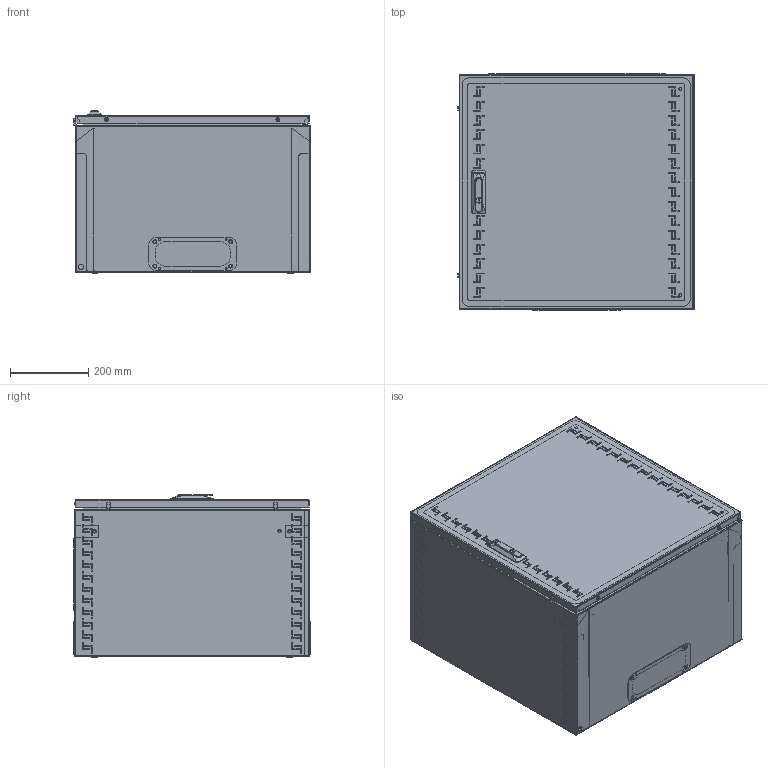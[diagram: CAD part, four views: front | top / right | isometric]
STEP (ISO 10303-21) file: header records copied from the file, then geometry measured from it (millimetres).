
FILE_DESCRIPTION (( 'STEP AP203' ), '1' );
FILE_NAME ('R5STI1240.STEP', '2019-07-16T11:53:00', ( '' ), ( '' ), 'SwSTEP 2.0', 'SolidWorks 2017', '' );
FILE_SCHEMA (( 'CONFIG_CONTROL_DESIGN' ));
Length unit declared in the file: millimetre
Products named in the file (38): Catch Mesan; RB.0374.02.00.0 C縫-01 (600x600x400); RB.0374.04.01.0; M6x12-DIN 6921_stright; Handle Mesan (part 3); RB.0374.05.01.0_-01 (600å600); RB.0374.04.00.0 CÁ; RB.0374.01.01.0_-01 (600å600å400); AC00C401_AC00C401; 4.8x13 DIN 7981 (R5A07)_straight; AC00C398; RB.0048.02.01.0; RB.0374.01.02.0_-01 (600x600); MirrorRB.0374.00.01.0_-00 (400)<As Machined>; M6x10-A1100004_straight; RB.0374.05.00.0 ÑÁ_-01 (600å600); AC00C399; Ì6õ20-A5100001_straight; MirrorMirrorRB.0374.00.01.0_-00 (400)<As Machined><As Machined>; Handle 308 Mesan; AC00C112; M4x8 GOST 17475-80 (DIN 965)_straight; Ì6õ12-A5100231_straight; AC00C380; RB.0374.06.00.0 ÑÁ_-01 (600å600); PF 7,5x15 door STI_0600å0600; AC00C383; RB.0374.01.00.0 C縫-01 (600x600x400); R5STI1240; RB.0374.00.01.0_-00 (400); Handle Mesan (part 1); AC00C061_AC00C061; RB.0374.03.01.0; RB.0374.00.02.0_-01 (12U); Handle Mesan (part 2); M6-DIN 6923 (CM100600)_straight; RB.0374.03.00.0 CÁ; RB.0374.00.02.0 mirror_-05 (12U)
Assembly tree (100 placements, depth 4):
  R5STI1240
    RB.0374.02.00.0 C縫-01 (600x600x400)
      RB.0374.01.00.0 C縫-01 (600x600x400)
        RB.0374.01.01.0_-01 (600å600å400)
        RB.0374.01.02.0_-01 (600x600)
        Ì6õ20-A5100001_straight  x4
        Ì6õ12-A5100231_straight  x6
      RB.0374.03.00.0 CÁ
        RB.0374.03.01.0
        Ì6õ12-A5100231_straight  x4
      RB.0374.04.00.0 CÁ  x2
        RB.0374.04.01.0
        Ì6õ12-A5100231_straight
      RB.0048.02.01.0  x2
      AC00C399  x2
      M4x8 GOST 17475-80 (DIN 965)_straight  x4
      AC00C383  x2
      AC00C061_AC00C061  x2
      M6-DIN 6923 (CM100600)_straight  x12
    RB.0374.06.00.0 ÑÁ_-01 (600å600)
      RB.0374.05.00.0 ÑÁ_-01 (600å600)
        RB.0374.05.01.0_-01 (600å600)
        AC00C398  x2
        Ì6õ12-A5100231_straight  x2
      AC00C112  x4
      AC00C061_AC00C061  x2
      PF 7,5x15 door STI_0600å0600
      Handle 308 Mesan
        Handle Mesan (part 1)
        Handle Mesan (part 2)
        Catch Mesan
        Handle Mesan (part 3)
        4.8x13 DIN 7981 (R5A07)_straight  x3
        M6x10-A1100004_straight
    RB.0374.00.01.0_-00 (400)
    RB.0374.00.02.0_-01 (12U)
    RB.0374.00.02.0 mirror_-05 (12U)
    M6x12-DIN 6921_stright  x4
    M6-DIN 6923 (CM100600)_straight  x12
    AC00C401_AC00C401  x2
    MirrorRB.0374.00.01.0_-00 (400)<As Machined>  x2
    MirrorMirrorRB.0374.00.01.0_-00 (400)<As Machined><As Machined>
    AC00C380  x2
Bounding box: 603.87 x 603 x 414.97 mm (x, y, z)
Volume: 2878031 mm3; surface area: 4099465.5 mm2
Topology: 140 solids, 140 shells, 5533 faces, 14183 edges, 9044 vertices
Faces by surface type: plane 3341, cylinder 997, bspline 522, cone 473, torus 174, sphere 26
Entity records: 142730 total; most frequent: CARTESIAN_POINT 39217, ORIENTED_EDGE 20874, DIRECTION 18292, EDGE_CURVE 10437, LINE 8120, VECTOR 8120, VERTEX_POINT 6775, AXIS2_PLACEMENT_3D 5086
